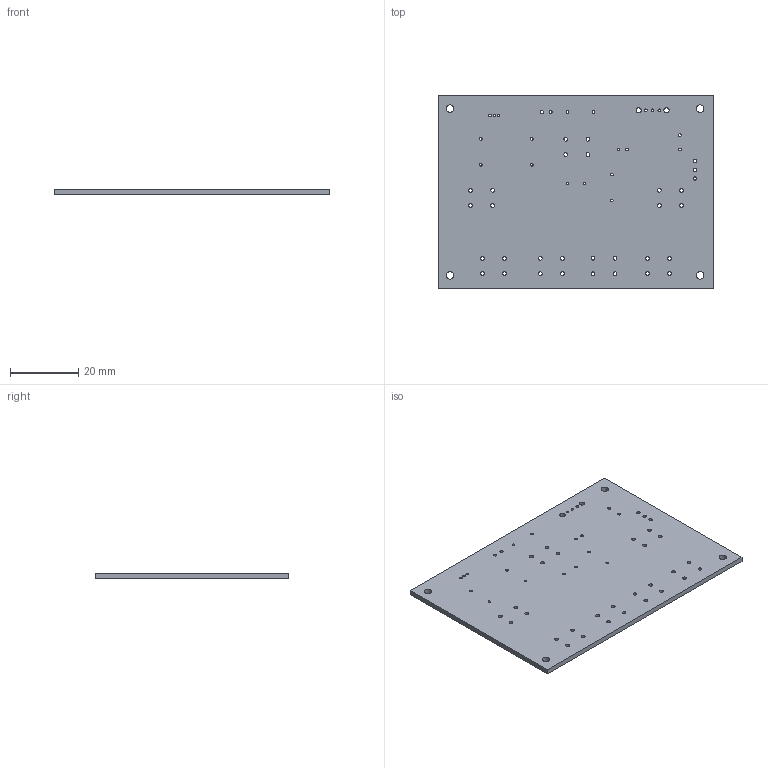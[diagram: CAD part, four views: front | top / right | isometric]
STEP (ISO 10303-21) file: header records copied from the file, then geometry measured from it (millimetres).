
FILE_DESCRIPTION(/* description */ ('STEP AP242 Edition 2','CAx-IF Rec.Pracs.---Representation and Presentation of Product Manufacturing Information (PMI)---4.0---2014-10-13','CAx-IF Rec.Pracs.---3D Tessellated Geometry---0.4---2014-09-14','2;1','CAx-IF Rec.Pracs.---User Defined Attributes---1.5---2016-08-15'),/* implementation_level */ '2;1');
FILE_NAME(/* name */ 'Part Studio 1 - Surface 23',/* time_stamp */ '2026-11-25T23:28:52Z',/* author */ (''),/* organization */ (''),/* preprocessor_version */ 'ST-DEVELOPER v20',/* originating_system */ 'ONSHAPE BY PTC INC, 1.224',/* authorisation */ ' ');
FILE_SCHEMA (('AP242_MANAGED_MODEL_BASED_3D_ENGINEERING_MIM_LF { 1 0 10303 442 3 1 4 }'));
Length unit declared in the file: metre
Products named in the file (1): MiniFan_IR_Remote_PCB
Bounding box: 81 x 57 x 1.51 mm (x, y, z)
Volume: 6882.6 mm3; surface area: 9833.3 mm2
Topology: 1 solids, 1 shells, 65 faces, 189 edges, 126 vertices
Faces by surface type: cylinder 59, plane 6
Full cylindrical faces by diameter (mm): 0.75 x3, 0.8 x15, 0.85 x2, 0.9 x2, 1 x3, 1.1 x28, 1.5 x2, 2.2 x4
Entity records: 2175 total; most frequent: DIRECTION 380, CARTESIAN_POINT 322, ORIENTED_EDGE 260, EDGE_LOOP 242, FACE_BOUND 242, AXIS2_PLACEMENT_3D 184, EDGE_CURVE 130, VERTEX_POINT 126
